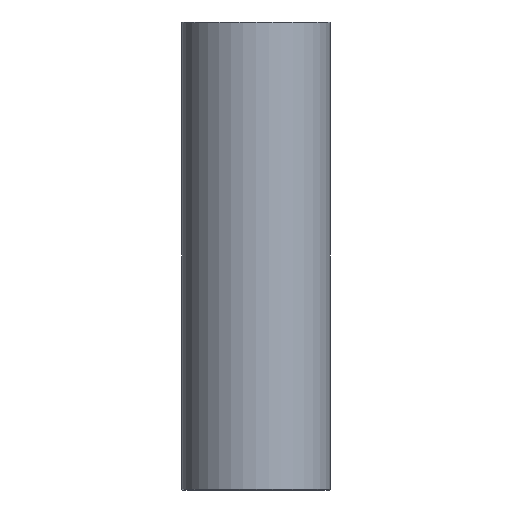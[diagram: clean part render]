
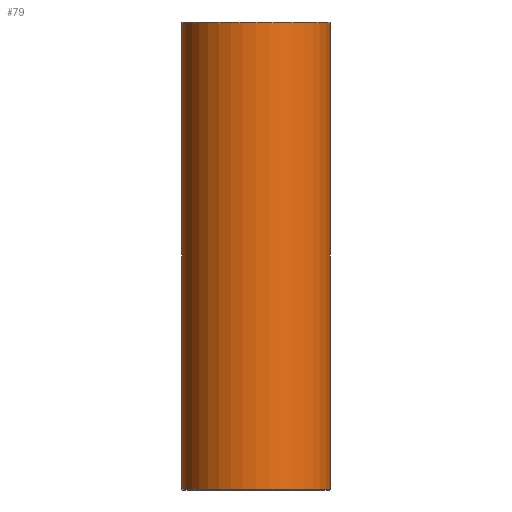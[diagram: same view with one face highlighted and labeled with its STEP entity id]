
A CAD part, front view. The second image highlights one B-rep face of the part: STEP entity #79.
In plain terms, the highlighted cylindrical face has radius 19 mm (diameter 38 mm), a full revolution.
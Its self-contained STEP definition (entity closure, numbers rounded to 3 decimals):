
#79=ADVANCED_FACE('',(#96,#97),#98,.T.);
#96=FACE_OUTER_BOUND('',#120,.T.);
#97=FACE_OUTER_BOUND('',#121,.T.);
#98=CYLINDRICAL_SURFACE('',#122,19.0);
#120=EDGE_LOOP('',(#152));
#121=EDGE_LOOP('',(#153));
#122=AXIS2_PLACEMENT_3D('',#154,#155,#156);
#152=ORIENTED_EDGE('',*,*,#178,.T.);
#153=ORIENTED_EDGE('',*,*,#177,.T.);
#154=CARTESIAN_POINT('',(0.0,0.0,120.0));
#155=DIRECTION('',(0.0,0.0,-1.0));
#156=DIRECTION('',(-1.0,0.0,0.0));
#177=EDGE_CURVE('',#190,#190,#191,.T.);
#178=EDGE_CURVE('',#192,#192,#193,.F.);
#190=VERTEX_POINT('',#206);
#191=CIRCLE('',#207,19.0);
#192=VERTEX_POINT('',#208);
#193=CIRCLE('',#209,19.0);
#206=CARTESIAN_POINT('',(19.0,0.0,0.2));
#207=AXIS2_PLACEMENT_3D('',#227,#228,#229);
#208=CARTESIAN_POINT('',(19.0,0.,119.8));
#209=AXIS2_PLACEMENT_3D('',#230,#231,#232);
#227=CARTESIAN_POINT('',(0.0,0.0,0.2));
#228=DIRECTION('',(0.0,0.0,1.0));
#229=DIRECTION('',(1.0,0.0,0.0));
#230=CARTESIAN_POINT('',(0.0,0.0,119.8));
#231=DIRECTION('',(0.0,0.0,1.0));
#232=DIRECTION('',(1.0,0.0,0.0));
